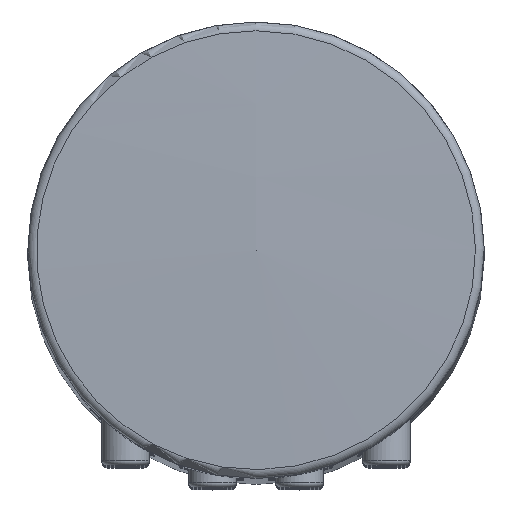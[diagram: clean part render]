
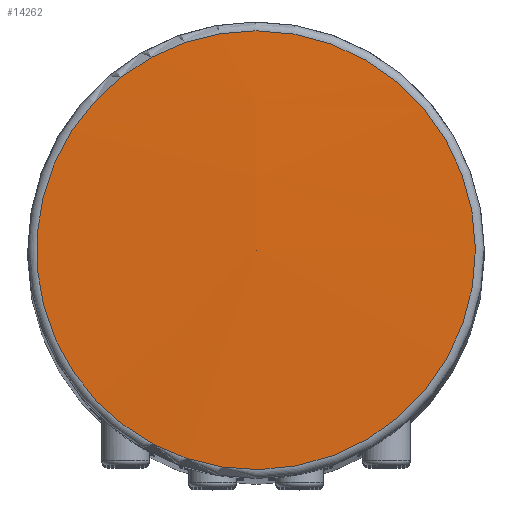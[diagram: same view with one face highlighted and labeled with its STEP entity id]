
A CAD part, top view. The second image highlights one B-rep face of the part: STEP entity #14262.
In plain terms, the highlighted spherical face has radius 327.911 mm.
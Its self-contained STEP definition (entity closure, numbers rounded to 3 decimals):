
#37=SPHERICAL_SURFACE('',#15521,327.911);
#3596=FACE_OUTER_BOUND('',#4644,.T.);
#4644=EDGE_LOOP('',(#13052,#13053,#13054,#13055));
#5393=CIRCLE('',#15518,12.018);
#5394=CIRCLE('',#15519,12.018);
#5396=CIRCLE('',#15522,327.911);
#6786=VERTEX_POINT('',#96920);
#6787=VERTEX_POINT('',#96921);
#6788=VERTEX_POINT('',#96926);
#8896=EDGE_CURVE('',#6786,#6787,#5393,.T.);
#8897=EDGE_CURVE('',#6787,#6786,#5394,.T.);
#8899=EDGE_CURVE('',#6787,#6788,#5396,.T.);
#13052=ORIENTED_EDGE('',*,*,#8896,.F.);
#13053=ORIENTED_EDGE('',*,*,#8897,.F.);
#13054=ORIENTED_EDGE('',*,*,#8899,.T.);
#13055=ORIENTED_EDGE('',*,*,#8899,.F.);
#14262=ADVANCED_FACE('',(#3596),#37,.T.);
#15518=AXIS2_PLACEMENT_3D('',#96922,#18313,#18314);
#15519=AXIS2_PLACEMENT_3D('',#96923,#18315,#18316);
#15521=AXIS2_PLACEMENT_3D('',#96925,#18319,#18320);
#15522=AXIS2_PLACEMENT_3D('',#96927,#18321,#18322);
#18313=DIRECTION('center_axis',(0.,0.,-1.));
#18314=DIRECTION('ref_axis',(0.,1.,0.));
#18315=DIRECTION('center_axis',(0.,0.,-1.));
#18316=DIRECTION('ref_axis',(0.,1.,0.));
#18319=DIRECTION('center_axis',(0.,0.,
-1.));
#18320=DIRECTION('ref_axis',(0.,-1.,0.));
#18321=DIRECTION('center_axis',(1.,0.,0.));
#18322=DIRECTION('ref_axis',(0.,1.,0.));
#96920=CARTESIAN_POINT('',(2.299,-12.017,197.768));
#96921=CARTESIAN_POINT('',(2.15,12.018,197.768));
#96922=CARTESIAN_POINT('Origin',(2.15,0.,197.768));
#96923=CARTESIAN_POINT('Origin',(2.15,0.,197.768));
#96925=CARTESIAN_POINT('Origin',(2.15,0.,-129.923));
#96926=CARTESIAN_POINT('',(2.15,0.,197.988));
#96927=CARTESIAN_POINT('Origin',(2.15,0.,-129.923));
